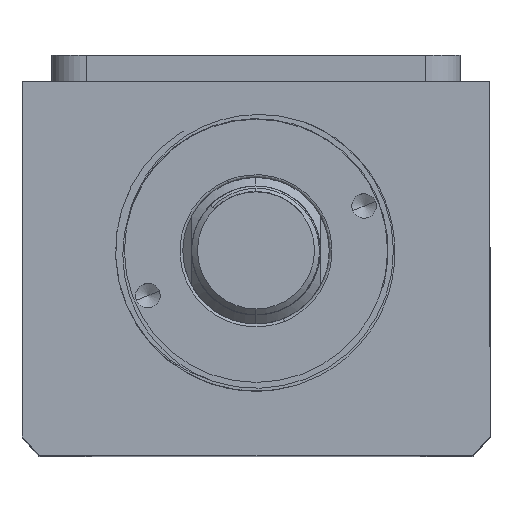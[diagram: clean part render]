
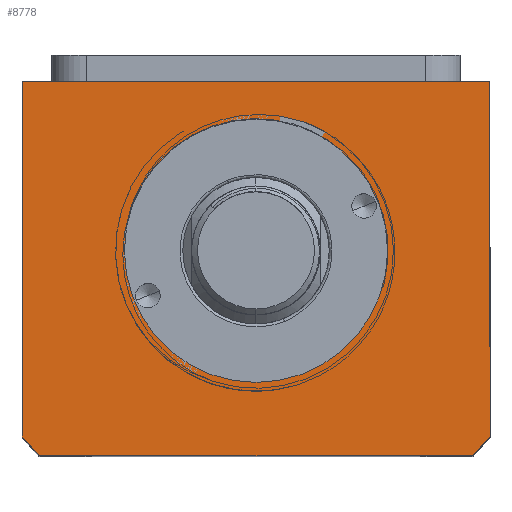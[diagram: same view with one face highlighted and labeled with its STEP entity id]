
A CAD part, top view. The second image highlights one B-rep face of the part: STEP entity #8778.
In plain terms, the highlighted planar face has unit normal (0, 0, 1).
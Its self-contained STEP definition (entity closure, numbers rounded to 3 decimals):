
#124 = DIRECTION ( 'NONE',  ( 1., 0., 0. ) ) ;
#685 = EDGE_LOOP ( 'NONE', ( #15776, #10058, #5446, #17109, #3571, #6808 ) ) ;
#738 = VERTEX_POINT ( 'NONE', #6400 ) ;
#780 = CIRCLE ( 'NONE', #16494, 51. ) ;
#889 = EDGE_CURVE ( 'NONE', #13878, #9941, #15863, .T. ) ;
#1017 = DIRECTION ( 'NONE',  ( 0., 0., 1. ) ) ;
#1166 = DIRECTION ( 'NONE',  ( 1., 0., 0. ) ) ;
#1577 = VECTOR ( 'NONE', #11445, 1000. ) ;
#1944 = CARTESIAN_POINT ( 'NONE',  ( -40., -11.507, 120. ) ) ;
#2251 = EDGE_CURVE ( 'NONE', #738, #14025, #11677, .T. ) ;
#2401 = LINE ( 'NONE', #8615, #5619 ) ;
#2432 = VECTOR ( 'NONE', #7066, 1000. ) ;
#2475 = CARTESIAN_POINT ( 'NONE',  ( 37.094, -75.507, 120. ) ) ;
#3571 = ORIENTED_EDGE ( 'NONE', *, *, #9110, .T. ) ;
#4156 = ORIENTED_EDGE ( 'NONE', *, *, #9960, .F. ) ;
#4341 = EDGE_CURVE ( 'NONE', #4563, #9389, #780, .T. ) ;
#4507 = CARTESIAN_POINT ( 'NONE',  ( 0., -40.507, 120. ) ) ;
#4563 = VERTEX_POINT ( 'NONE', #11584 ) ;
#4763 = LINE ( 'NONE', #15045, #11522 ) ;
#5336 = VERTEX_POINT ( 'NONE', #8486 ) ;
#5364 = EDGE_LOOP ( 'NONE', ( #12208, #4156 ) ) ;
#5446 = ORIENTED_EDGE ( 'NONE', *, *, #17429, .T. ) ;
#5619 = VECTOR ( 'NONE', #9978, 1000. ) ;
#5892 = DIRECTION ( 'NONE',  ( 1., 0., 0. ) ) ;
#6066 = LINE ( 'NONE', #13757, #2432 ) ;
#6400 = CARTESIAN_POINT ( 'NONE',  ( 22.5, -40.507, 120. ) ) ;
#6499 = LINE ( 'NONE', #1944, #1577 ) ;
#6805 = CARTESIAN_POINT ( 'NONE',  ( 40., -11.507, 120. ) ) ;
#6808 = ORIENTED_EDGE ( 'NONE', *, *, #16272, .T. ) ;
#7066 = DIRECTION ( 'NONE',  ( 0., 1., 0. ) ) ;
#7937 = AXIS2_PLACEMENT_3D ( 'NONE', #9171, #1017, #10537 ) ;
#8316 = DIRECTION ( 'NONE',  ( 0., 0., 1. ) ) ;
#8486 = CARTESIAN_POINT ( 'NONE',  ( -40., -11.507, 120. ) ) ;
#8615 = CARTESIAN_POINT ( 'NONE',  ( -40., -11.507, 120. ) ) ;
#8778 = ADVANCED_FACE ( 'NONE', ( #9030, #16230 ), #16047, .T. ) ;
#9030 = FACE_BOUND ( 'NONE', #5364, .T. ) ;
#9110 = EDGE_CURVE ( 'NONE', #9941, #11748, #6066, .T. ) ;
#9171 = CARTESIAN_POINT ( 'NONE',  ( 0., -40.507, 120. ) ) ;
#9312 = DIRECTION ( 'NONE',  ( 0., 0., 1. ) ) ;
#9389 = VERTEX_POINT ( 'NONE', #15573 ) ;
#9609 = DIRECTION ( 'NONE',  ( 1., 0., 0. ) ) ;
#9941 = VERTEX_POINT ( 'NONE', #11200 ) ;
#9960 = EDGE_CURVE ( 'NONE', #14025, #738, #17227, .T. ) ;
#9978 = DIRECTION ( 'NONE',  ( 0., -1., 0. ) ) ;
#10035 = AXIS2_PLACEMENT_3D ( 'NONE', #4507, #13993, #5892 ) ;
#10058 = ORIENTED_EDGE ( 'NONE', *, *, #4341, .T. ) ;
#10537 = DIRECTION ( 'NONE',  ( 1., 0., 0. ) ) ;
#11200 = CARTESIAN_POINT ( 'NONE',  ( 40., -72.145, 120. ) ) ;
#11206 = EDGE_CURVE ( 'NONE', #5336, #4563, #2401, .T. ) ;
#11445 = DIRECTION ( 'NONE',  ( -1., 0., 0. ) ) ;
#11522 = VECTOR ( 'NONE', #16372, 1000. ) ;
#11584 = CARTESIAN_POINT ( 'NONE',  ( -40., -72.145, 120. ) ) ;
#11677 = CIRCLE ( 'NONE', #7937, 22.5 ) ;
#11748 = VERTEX_POINT ( 'NONE', #6805 ) ;
#12208 = ORIENTED_EDGE ( 'NONE', *, *, #2251, .F. ) ;
#12223 = DIRECTION ( 'NONE',  ( 0., 0., 1. ) ) ;
#12900 = AXIS2_PLACEMENT_3D ( 'NONE', #16442, #12223, #9609 ) ;
#13757 = CARTESIAN_POINT ( 'NONE',  ( 40., -11.507, 120. ) ) ;
#13878 = VERTEX_POINT ( 'NONE', #2475 ) ;
#13993 = DIRECTION ( 'NONE',  ( 0., 0., 1. ) ) ;
#14025 = VERTEX_POINT ( 'NONE', #15898 ) ;
#14702 = AXIS2_PLACEMENT_3D ( 'NONE', #17385, #9312, #1166 ) ;
#15045 = CARTESIAN_POINT ( 'NONE',  ( -40., -75.507, 120. ) ) ;
#15573 = CARTESIAN_POINT ( 'NONE',  ( -37.094, -75.507, 120. ) ) ;
#15776 = ORIENTED_EDGE ( 'NONE', *, *, #11206, .T. ) ;
#15863 = CIRCLE ( 'NONE', #12900, 51. ) ;
#15898 = CARTESIAN_POINT ( 'NONE',  ( -22.5, -40.507, 120. ) ) ;
#16047 = PLANE ( 'NONE',  #14702 ) ;
#16230 = FACE_OUTER_BOUND ( 'NONE', #685, .T. ) ;
#16272 = EDGE_CURVE ( 'NONE', #11748, #5336, #6499, .T. ) ;
#16372 = DIRECTION ( 'NONE',  ( 1., 0., 0. ) ) ;
#16388 = CARTESIAN_POINT ( 'NONE',  ( 0., -40.507, 120. ) ) ;
#16442 = CARTESIAN_POINT ( 'NONE',  ( 0., -40.507, 120. ) ) ;
#16494 = AXIS2_PLACEMENT_3D ( 'NONE', #16388, #8316, #124 ) ;
#17109 = ORIENTED_EDGE ( 'NONE', *, *, #889, .T. ) ;
#17227 = CIRCLE ( 'NONE', #10035, 22.5 ) ;
#17385 = CARTESIAN_POINT ( 'NONE',  ( 0., 0., 120. ) ) ;
#17429 = EDGE_CURVE ( 'NONE', #9389, #13878, #4763, .T. ) ;
